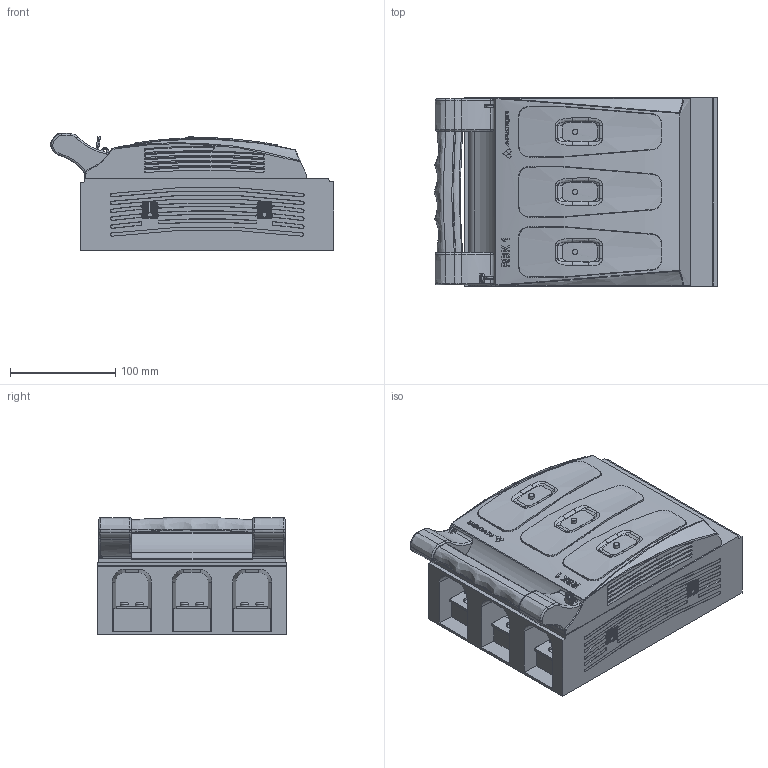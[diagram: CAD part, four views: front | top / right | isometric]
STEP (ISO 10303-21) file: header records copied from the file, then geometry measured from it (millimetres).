
FILE_DESCRIPTION(/* description */ (''),/* implementation_level */ '2;1');
FILE_NAME(/* name */ 'RBK 1 - 63-811779-011.stp',/* time_stamp */ '2019-02-25T14:21:11+01:00',/* author */ (''),/* organization */ (''),/* preprocessor_version */ 'ST-DEVELOPER v16',/* originating_system */ 'SIEMENS PLM Software NX 10.0',/* authorisation */ '');
FILE_SCHEMA (('AUTOMOTIVE_DESIGN { 1 0 10303 214 3 1 1 1 }'));
Products named in the file (1): 710_1E54D809gzik
Bounding box: 268.9 x 180 x 111 mm (x, y, z)
Surface area: 240420.7 mm2
Topology: 18 solids, 19 shells, 2291 faces, 6019 edges, 3815 vertices
Faces by surface type: plane 1376, bspline 305, cylinder 268, cone 172, torus 88, sphere 36, extrusion 28, revolution 18
Full cylindrical faces by diameter (mm): 4.5 x6, 11 x6
Entity records: 84979 total; most frequent: CARTESIAN_POINT 29791, ORIENTED_EDGE 11846, DIRECTION 11285, EDGE_CURVE 5923, AXIS2_PLACEMENT_3D 4378, VERTEX_POINT 3799, VECTOR 2507, LINE 2479
